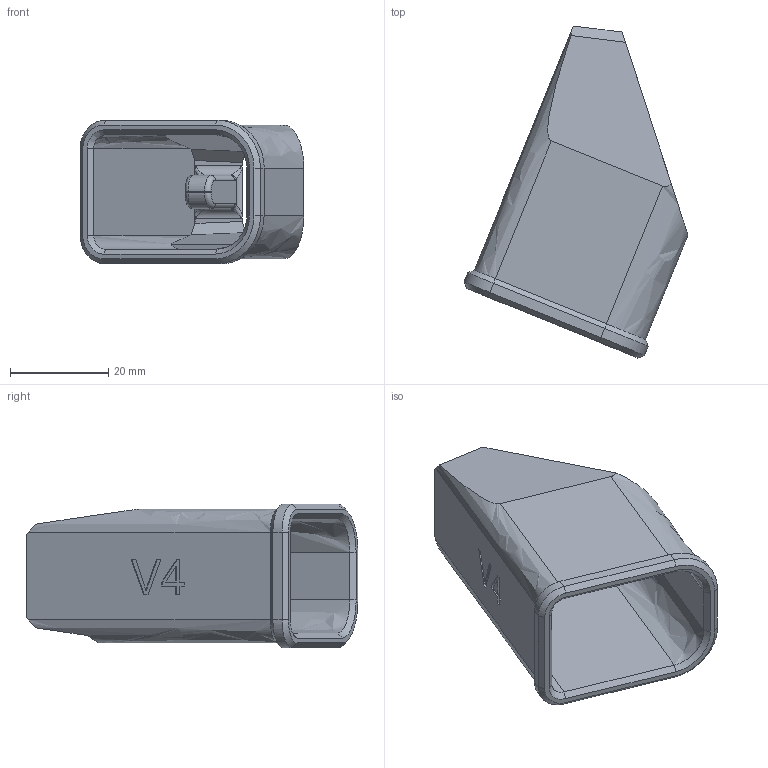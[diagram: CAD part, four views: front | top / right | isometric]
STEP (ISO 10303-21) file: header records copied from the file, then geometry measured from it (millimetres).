
FILE_DESCRIPTION(/* description */ (''),/* implementation_level */ '2;1');
FILE_NAME(/* name */ '/Users/evan/Desktop/LoadingTool.step',/* time_stamp */ '2021-02-23T09:45:40-08:00',/* author */ (''),/* organization */ (''),/* preprocessor_version */ 'ST-DEVELOPER v18.1',/* originating_system */ 'Autodesk Translation Framework v9.7.0.1280',/* authorisation */ '');
FILE_SCHEMA (('AUTOMOTIVE_DESIGN { 1 0 10303 214 3 1 1 }'));
Length unit declared in the file: millimetre
Products named in the file (1): LoadingTool
Bounding box: 45.48 x 67.47 x 29.24 mm (x, y, z)
Volume: 11725.4 mm3; surface area: 11494.8 mm2
Topology: 1 solids, 1 shells, 125 faces, 306 edges, 186 vertices
Faces by surface type: plane 72, bspline 37, cylinder 12, torus 4
Entity records: 5543 total; most frequent: CARTESIAN_POINT 2795, ORIENTED_EDGE 612, DIRECTION 452, EDGE_CURVE 306, LINE 212, VECTOR 212, VERTEX_POINT 186, EDGE_LOOP 130
